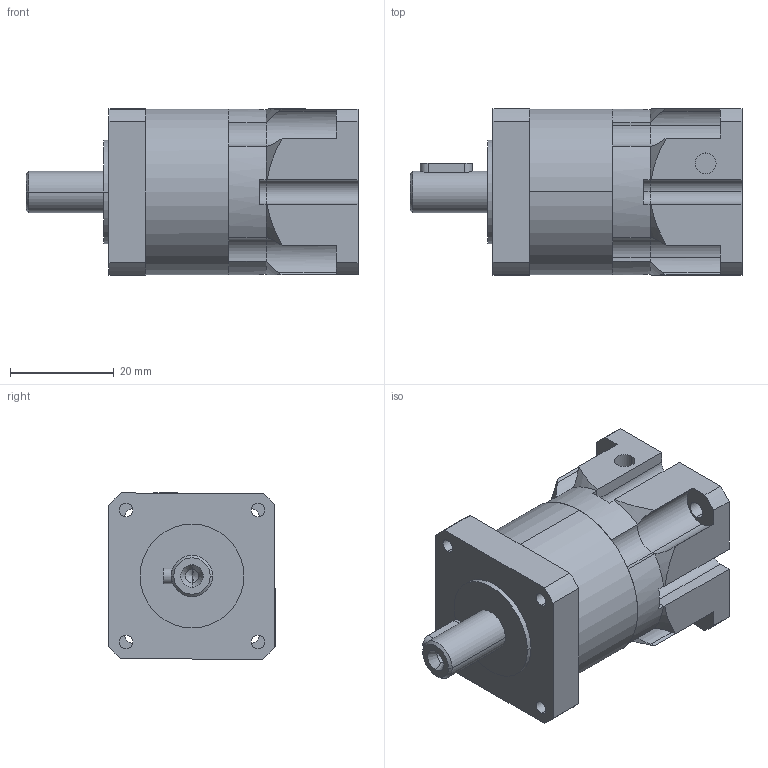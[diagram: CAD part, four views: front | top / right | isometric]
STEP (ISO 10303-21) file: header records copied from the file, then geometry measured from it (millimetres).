
FILE_DESCRIPTION (( 'STEP AP203' ), '1' );
FILE_NAME ('SL-030.STEP', '2010-05-19T17:06:51', ( 'render' ), ( '' ), 'SwSTEP 2.0', 'SolidWorks 2009', '' );
FILE_SCHEMA (( 'CONFIG_CONTROL_DESIGN' ));
Length unit declared in the file: millimetre
Products named in the file (1): SL-030
Bounding box: 64 x 32 x 32 mm (x, y, z)
Volume: 37745.5 mm3; surface area: 13813.1 mm2
Topology: 4 solids, 4 shells, 177 faces, 472 edges, 303 vertices
Faces by surface type: cylinder 89, plane 66, cone 22
Entity records: 5781 total; most frequent: CARTESIAN_POINT 1175, DIRECTION 980, ORIENTED_EDGE 924, EDGE_CURVE 462, AXIS2_PLACEMENT_3D 376, VERTEX_POINT 303, VECTOR 228, LINE 228
